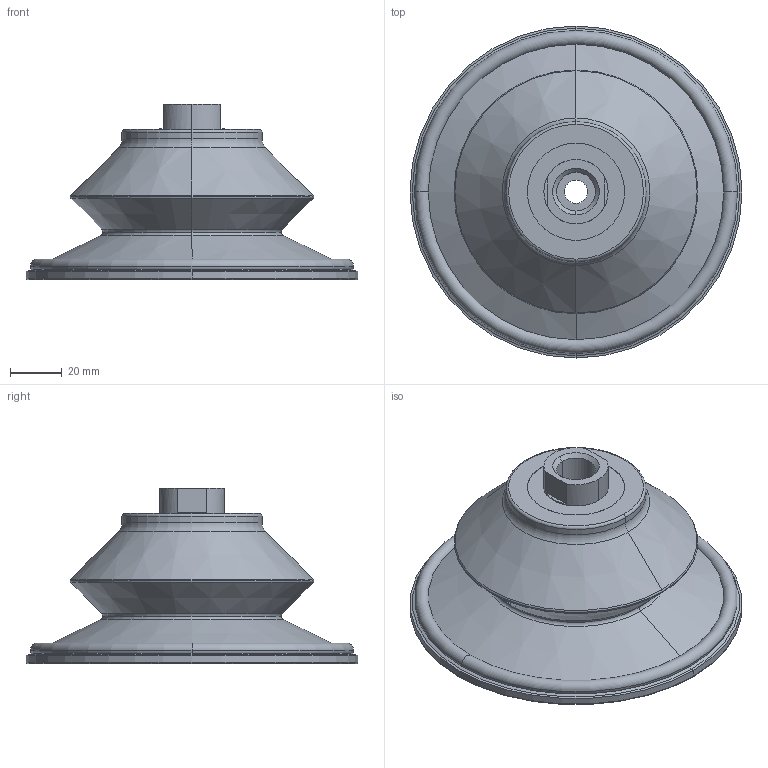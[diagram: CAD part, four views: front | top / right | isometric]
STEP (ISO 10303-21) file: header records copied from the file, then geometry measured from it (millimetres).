
FILE_DESCRIPTION(('STEP AP214'),'1');
FILE_NAME('10_01_06_00680.stp','2020-10-24T00:23:04',('TraceParts'),('TraceParts S.A.'),'Spatial InterOp 3D',' ',' ');
FILE_SCHEMA(('AUTOMOTIVE_DESIGN { 1 0 10303 214 1 1 1 1 }'));
Length unit declared in the file: millimetre
Products named in the file (1): 10_01_06_00680
Bounding box: 128 x 128 x 67.8 mm (x, y, z)
Volume: 272098.7 mm3; surface area: 47393 mm2
Topology: 1 solids, 1 shells, 65 faces, 138 edges, 80 vertices
Faces by surface type: torus 22, cylinder 18, cone 14, plane 11
Entity records: 2311 total; most frequent: DIRECTION 368, CARTESIAN_POINT 284, ORIENTED_EDGE 276, AXIS2_PLACEMENT_3D 164, EDGE_CURVE 138, CIRCLE 98, VERTEX_POINT 80, EDGE_LOOP 72
